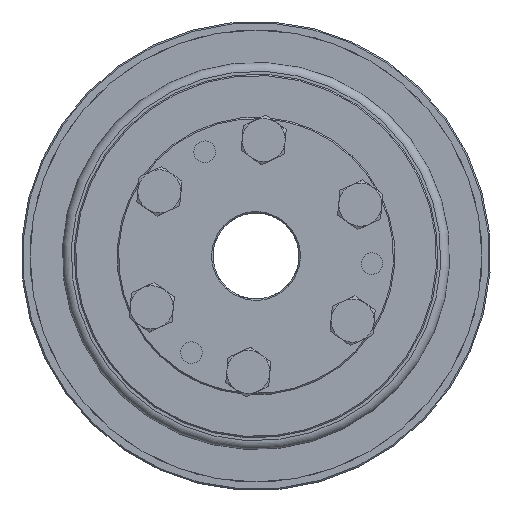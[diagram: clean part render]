
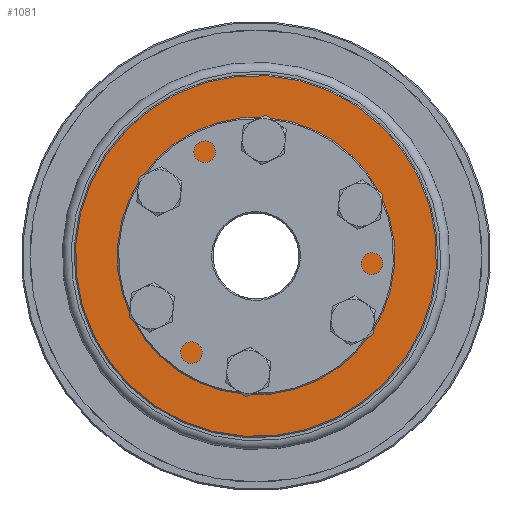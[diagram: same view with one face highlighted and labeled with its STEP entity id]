
A CAD part, left-side view. The second image highlights one B-rep face of the part: STEP entity #1081.
In plain terms, the highlighted planar face has unit normal (-1, 0, 0) as drawn and (1, 0, 0) by its records, which use the part's own axes.
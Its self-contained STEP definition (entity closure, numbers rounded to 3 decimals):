
#1081 = ADVANCED_FACE( 'NONE', ( #2163, #2164, #2165, #2166, #2167, #2168, #2169, #2170 ), #2171, .F. );
#2163 = FACE_OUTER_BOUND( '', #3188, .T. );
#2164 = FACE_BOUND( '', #3189, .T. );
#2165 = FACE_BOUND( '', #3190, .T. );
#2166 = FACE_BOUND( '', #3191, .T. );
#2167 = FACE_BOUND( '', #3192, .T. );
#2168 = FACE_BOUND( '', #3193, .T. );
#2169 = FACE_BOUND( '', #3194, .T. );
#2170 = FACE_BOUND( '', #3195, .T. );
#2171 = PLANE( '', #3196 );
#3188 = EDGE_LOOP( '', ( #4713 ) );
#3189 = EDGE_LOOP( '', ( #4714 ) );
#3190 = EDGE_LOOP( '', ( #4715 ) );
#3191 = EDGE_LOOP( '', ( #4716 ) );
#3192 = EDGE_LOOP( '', ( #4717 ) );
#3193 = EDGE_LOOP( '', ( #4718 ) );
#3194 = EDGE_LOOP( '', ( #4719 ) );
#3195 = EDGE_LOOP( '', ( #4720 ) );
#3196 = AXIS2_PLACEMENT_3D( '', #4721, #4722, #4723 );
#4713 = ORIENTED_EDGE( '', *, *, #5384, .T. );
#4714 = ORIENTED_EDGE( '', *, *, #5158, .T. );
#4715 = ORIENTED_EDGE( '', *, *, #5061, .F. );
#4716 = ORIENTED_EDGE( '', *, *, #5322, .F. );
#4717 = ORIENTED_EDGE( '', *, *, #5178, .F. );
#4718 = ORIENTED_EDGE( '', *, *, #4889, .F. );
#4719 = ORIENTED_EDGE( '', *, *, #5236, .F. );
#4720 = ORIENTED_EDGE( '', *, *, #5253, .F. );
#4721 = CARTESIAN_POINT( '', ( 20., 42.25, 0. ) );
#4722 = DIRECTION( '', ( -1., 0., 0. ) );
#4723 = DIRECTION( '', ( 0., 0., 1. ) );
#4889 = EDGE_CURVE( 'NONE', #5464, #5464, #5465, .T. );
#5061 = EDGE_CURVE( 'NONE', #5751, #5751, #5752, .T. );
#5158 = EDGE_CURVE( 'NONE', #5898, #5898, #5899, .T. );
#5178 = EDGE_CURVE( 'NONE', #5930, #5930, #5931, .T. );
#5236 = EDGE_CURVE( 'NONE', #6010, #6010, #6011, .T. );
#5253 = EDGE_CURVE( 'NONE', #6032, #6032, #6033, .T. );
#5322 = EDGE_CURVE( 'NONE', #6128, #6128, #6129, .T. );
#5384 = EDGE_CURVE( 'NONE', #6208, #6208, #6209, .T. );
#5464 = VERTEX_POINT( '', #6302 );
#5465 = CIRCLE( '', #6303, 3. );
#5751 = VERTEX_POINT( '', #6650 );
#5752 = CIRCLE( '', #6651, 3. );
#5898 = VERTEX_POINT( '', #7000 );
#5899 = CIRCLE( '', #7001, 23.558 );
#5930 = VERTEX_POINT( '', #7037 );
#5931 = CIRCLE( '', #7038, 3. );
#6010 = VERTEX_POINT( '', #7198 );
#6011 = CIRCLE( '', #7199, 3. );
#6032 = VERTEX_POINT( '', #7230 );
#6033 = CIRCLE( '', #7231, 3. );
#6128 = VERTEX_POINT( '', #7330 );
#6129 = CIRCLE( '', #7331, 3. );
#6208 = VERTEX_POINT( '', #7536 );
#6209 = CIRCLE( '', #7537, 41.95 );
#6302 = CARTESIAN_POINT( '', ( 20., -13.5, -26.383 ) );
#6303 = AXIS2_PLACEMENT_3D( '', #7621, #7622, #7623 );
#6650 = CARTESIAN_POINT( '', ( 20., -13.5, 20.383 ) );
#6651 = AXIS2_PLACEMENT_3D( '', #7922, #7923, #7924 );
#7000 = CARTESIAN_POINT( '', ( 20., 0., 23.558 ) );
#7001 = AXIS2_PLACEMENT_3D( '', #8056, #8057, #8058 );
#7037 = CARTESIAN_POINT( '', ( 20., 13.5, -26.383 ) );
#7038 = AXIS2_PLACEMENT_3D( '', #8088, #8089, #8090 );
#7198 = CARTESIAN_POINT( '', ( 20., -27., -3. ) );
#7199 = AXIS2_PLACEMENT_3D( '', #8165, #8166, #8167 );
#7230 = CARTESIAN_POINT( '', ( 20., 13.5, 20.383 ) );
#7231 = AXIS2_PLACEMENT_3D( '', #8184, #8185, #8186 );
#7330 = CARTESIAN_POINT( '', ( 20., 27., -3. ) );
#7331 = AXIS2_PLACEMENT_3D( '', #8275, #8276, #8277 );
#7536 = CARTESIAN_POINT( '', ( 20., 0., 41.95 ) );
#7537 = AXIS2_PLACEMENT_3D( '', #8330, #8331, #8332 );
#7621 = CARTESIAN_POINT( '', ( 20., -13.5, -23.383 ) );
#7622 = DIRECTION( '', ( 1., 0., 0. ) );
#7623 = DIRECTION( '', ( 0., 0., -1. ) );
#7922 = CARTESIAN_POINT( '', ( 20., -13.5, 23.383 ) );
#7923 = DIRECTION( '', ( 1., 0., 0. ) );
#7924 = DIRECTION( '', ( 0., 0., -1. ) );
#8056 = CARTESIAN_POINT( '', ( 20., 0., 0. ) );
#8057 = DIRECTION( '', ( -1., 0., 0. ) );
#8058 = DIRECTION( '', ( 0., 0., 1. ) );
#8088 = CARTESIAN_POINT( '', ( 20., 13.5, -23.383 ) );
#8089 = DIRECTION( '', ( 1., 0., 0. ) );
#8090 = DIRECTION( '', ( 0., 0., -1. ) );
#8165 = CARTESIAN_POINT( '', ( 20., -27., 0. ) );
#8166 = DIRECTION( '', ( 1., 0., 0. ) );
#8167 = DIRECTION( '', ( 0., 0., -1. ) );
#8184 = CARTESIAN_POINT( '', ( 20., 13.5, 23.383 ) );
#8185 = DIRECTION( '', ( 1., 0., 0. ) );
#8186 = DIRECTION( '', ( 0., 0., -1. ) );
#8275 = CARTESIAN_POINT( '', ( 20., 27., 0. ) );
#8276 = DIRECTION( '', ( 1., 0., 0. ) );
#8277 = DIRECTION( '', ( 0., 0., -1. ) );
#8330 = CARTESIAN_POINT( '', ( 20., 0., 0. ) );
#8331 = DIRECTION( '', ( 1., 0., 0. ) );
#8332 = DIRECTION( '', ( 0., 0., 1. ) );
